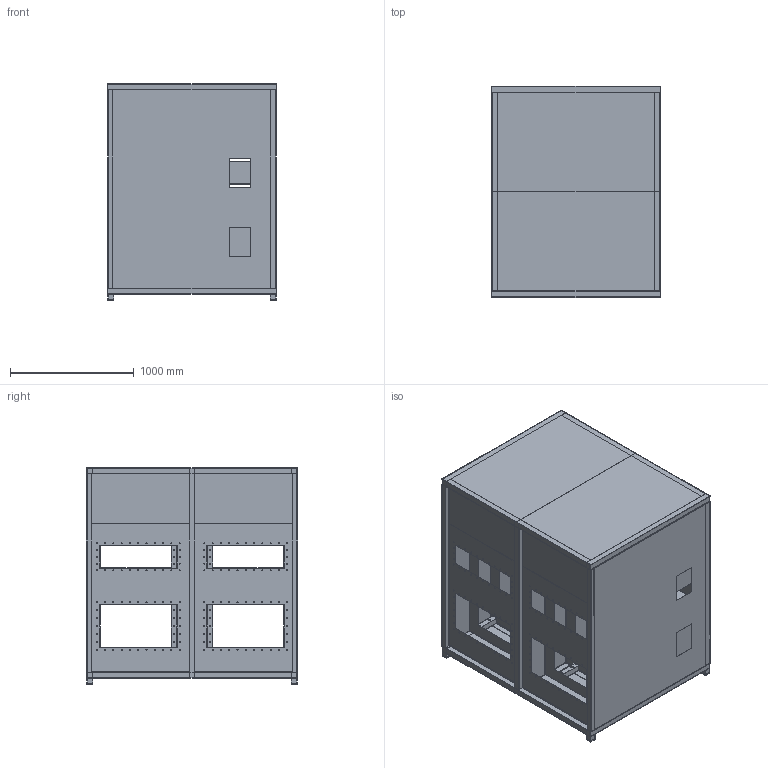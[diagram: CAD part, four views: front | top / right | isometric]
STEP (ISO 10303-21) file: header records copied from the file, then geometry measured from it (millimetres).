
FILE_DESCRIPTION(('Open CASCADE Model'),'2;1');
FILE_NAME('Open CASCADE Shape Model','2026-11-04T15:29:37',('Author'),( 'Open CASCADE'),'Open CASCADE STEP processor 7.9','Open CASCADE 7.9' ,'Unknown');
FILE_SCHEMA(('AP242_MANAGED_MODEL_BASED_3D_ENGINEERING_MIM_LF {1 0 10303 442 1 1 4 }' ));
Length unit declared in the file: millimetre
Products named in the file (97): AT_SHELL2_2V_C02_SHELL; BASE_X_-850; BASE_X_800; BASE_Y_-50; BASE_Y_1260; LEG_-50_-850; FOOT_-50_-850; POST_-50_-850; LEG_-50_800; FOOT_-50_800; POST_-50_800; LEG_1260_-850; FOOT_1260_-850; POST_1260_-850; LEG_1260_800; FOOT_1260_800; POST_1260_800; TOP_X_-850; TOP_X_800; TOP_Y_-50; TOP_Y_1260; FRONT_CENTRE_SPINE; A_CROSS_SUPPORT_0; A_CROSS_SUPPORT_1; A_POD_BOTTOM_F; A_POD_BOTTOM_C; A_POD_BOTTOM_R; A_BASE_Y_RAIL_265; A_BASE_Y_RAIL_435; A_CORE_SIDE_-840; A_CORE_SIDE_-21.5; A_F_PLENUM_SIDE_-840; A_F_PLENUM_SIDE_-21.5; A_F_PLENUM_TOP; A_F_HX_APERTURE; A_R_PLENUM_SIDE_-840; A_R_PLENUM_SIDE_-21.5; A_R_PLENUM_TOP; A_R_HX_APERTURE; A_F_DUAL_PORT_PLATE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
Assembly tree (96 placements, depth 2):
  AT_SHELL2_2V_C02_SHELL
    BASE_X_-850
    BASE_X_800
    BASE_Y_-50
    BASE_Y_1260
    LEG_-50_-850
    FOOT_-50_-850
    POST_-50_-850
    LEG_-50_800
    FOOT_-50_800
    POST_-50_800
    LEG_1260_-850
    FOOT_1260_-850
    POST_1260_-850
    LEG_1260_800
    FOOT_1260_800
    POST_1260_800
    TOP_X_-850
    TOP_X_800
    TOP_Y_-50
    TOP_Y_1260
    FRONT_CENTRE_SPINE
    A_CROSS_SUPPORT_0
    A_CROSS_SUPPORT_1
    A_POD_BOTTOM_F
    A_POD_BOTTOM_C
    A_POD_BOTTOM_R
    A_BASE_Y_RAIL_265
    A_BASE_Y_RAIL_435
    A_CORE_SIDE_-840
    A_CORE_SIDE_-21.5
    A_F_PLENUM_SIDE_-840
    A_F_PLENUM_SIDE_-21.5
    A_F_PLENUM_TOP
    A_F_HX_APERTURE
    A_R_PLENUM_SIDE_-840
    A_R_PLENUM_SIDE_-21.5
    A_R_PLENUM_TOP
    A_R_HX_APERTURE
    A_F_DUAL_PORT_PLATE
    A_R_P_DUCT_Y_-795
    A_R_P_DUCT_Y_-166.5
    A_R_P_DUCT_Z_300
    A_R_P_DUCT_Z_643.5
    A_R_R_DUCT_Y_-795
    A_R_R_DUCT_Y_-166.5
    A_R_R_DUCT_Z_940
    A_R_R_DUCT_Z_1118.5
    A_R_DUAL_PORT_PLATE
    A_FRONT_SERVICE_BLANK
    A_WATER_GLAND_PANEL
    B_CROSS_SUPPORT_0
    B_CROSS_SUPPORT_1
    B_POD_BOTTOM_F
    B_POD_BOTTOM_C
    B_POD_BOTTOM_R
    B_BASE_Y_RAIL_265
    B_BASE_Y_RAIL_435
    B_CORE_SIDE_20
    B_CORE_SIDE_838.5
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Bounding box: 1364 x 1704 x 1752 mm (x, y, z)
Volume: 56442308.7 mm3; surface area: 54731175.4 mm2
Topology: 96 solids, 96 shells, 1032 faces, 2520 edges, 1680 vertices
Faces by surface type: plane 772, cylinder 260
Full cylindrical faces by diameter (mm): 9 x240, 17 x16, 110 x4
Entity records: 65879 total; most frequent: CARTESIAN_POINT 11161, DIRECTION 9546, LINE 5728, VECTOR 5728, ORIENTED_EDGE 5040, PCURVE 5040, DEFINITIONAL_REPRESENTATION 5040, EDGE_CURVE 2520
